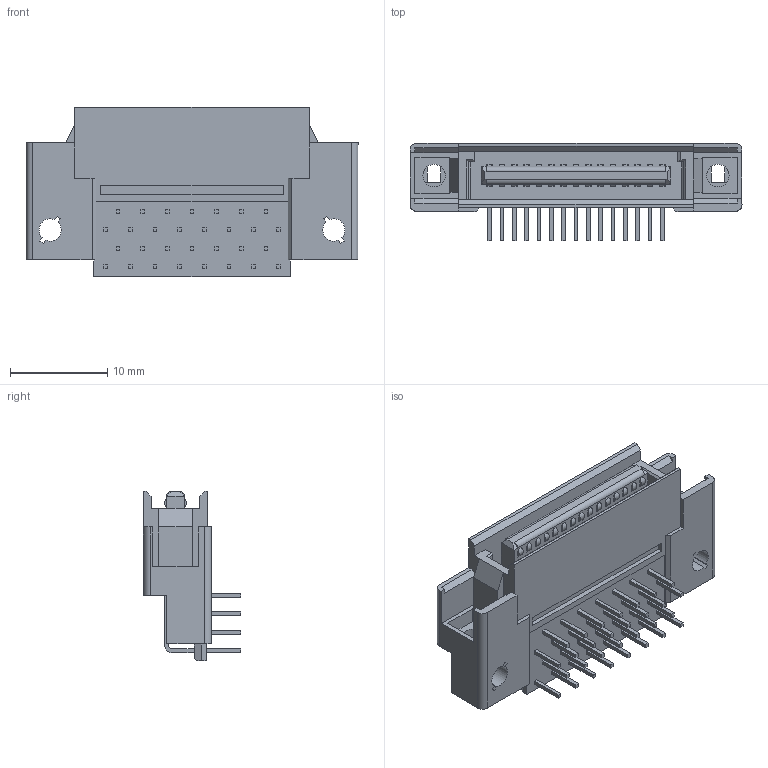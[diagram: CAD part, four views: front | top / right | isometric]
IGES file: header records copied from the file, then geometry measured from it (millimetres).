
Start section: Elysium IGES Interface
Global section: file name: 115HC:\Users\1529\Desktop\営業業務3DCAD依頼対応\8830E-XXX-170L\寸法・形状確認済\ハーフ=奇数\P3D810_8830E-030-170L-F.igs; native system: Creo Elements/Direct Modeling 20.4A  18-Oct-2021; preprocessor: Creo Element/Direct IGES_3D V2.2; author: Unknown; organization: Unknown; date: 20230329.154605; units: millimetre
Bounding box: 34.18 x 10 x 17.4 mm (x, y, z)
Volume: 1693.8 mm3; surface area: 3275.4 mm2
Topology: 1 solids, 1 shells, 1164 faces, 3094 edges, 2053 vertices
Faces by surface type: bspline 1164
